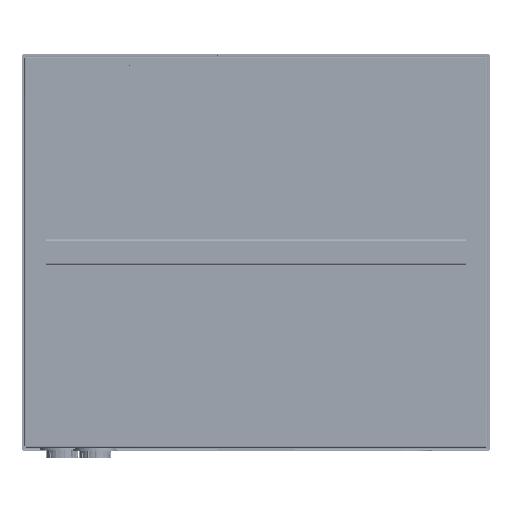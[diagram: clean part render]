
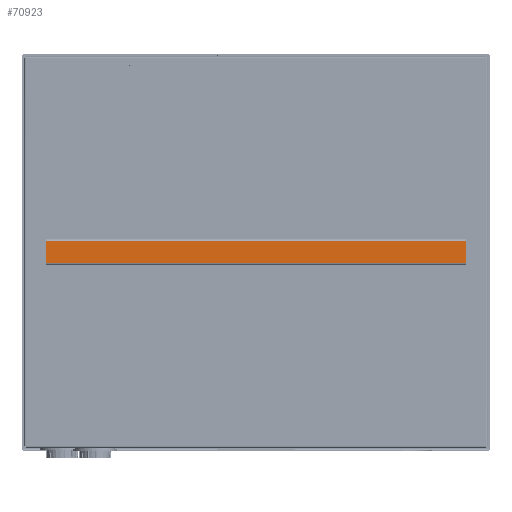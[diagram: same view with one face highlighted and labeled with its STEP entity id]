
A CAD part, front view. The second image highlights one B-rep face of the part: STEP entity #70923.
In plain terms, the highlighted planar face has unit normal (0, 0, 1) by its records, which use the part's own axes.
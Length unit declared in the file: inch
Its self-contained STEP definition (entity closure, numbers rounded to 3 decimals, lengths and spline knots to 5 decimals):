
#26172 = VERTEX_POINT ( 'NONE', #248374 ) ;
#65211 = CARTESIAN_POINT ( 'NONE',  ( 5.10251, -13.39683, 0. ) ) ;
#67539 = EDGE_LOOP ( 'NONE', ( #282380, #541261, #337173, #351784 ) ) ;
#70923 = ADVANCED_FACE ( 'NONE', ( #541276 ), #175652, .F. ) ;
#75645 = LINE ( 'NONE', #426423, #325132 ) ;
#119190 = VECTOR ( 'NONE', #161264, 39.37008 ) ;
#129243 = AXIS2_PLACEMENT_3D ( 'NONE', #554877, #273998, #602005 ) ;
#145621 = DIRECTION ( 'NONE',  ( 0., -1., 0. ) ) ;
#161264 = DIRECTION ( 'NONE',  ( 1., 0., 0. ) ) ;
#163746 = CARTESIAN_POINT ( 'NONE',  ( 5.10251, 16.60317, 0. ) ) ;
#175652 = PLANE ( 'NONE',  #129243 ) ;
#200962 = EDGE_CURVE ( 'NONE', #407192, #448274, #368646, .T. ) ;
#212320 = CARTESIAN_POINT ( 'NONE',  ( 4.40645, 16.60317, 0. ) ) ;
#243974 = VERTEX_POINT ( 'NONE', #480906 ) ;
#248374 = CARTESIAN_POINT ( 'NONE',  ( 5.10251, -13.39683, 0. ) ) ;
#271950 = DIRECTION ( 'NONE',  ( -1., 0., 0. ) ) ;
#273998 = DIRECTION ( 'NONE',  ( 0., 0., -1. ) ) ;
#282380 = ORIENTED_EDGE ( 'NONE', *, *, #200962, .F. ) ;
#287573 = LINE ( 'NONE', #65211, #412112 ) ;
#288718 = EDGE_CURVE ( 'NONE', #26172, #407192, #287573, .T. ) ;
#325132 = VECTOR ( 'NONE', #145621, 39.37008 ) ;
#337173 = ORIENTED_EDGE ( 'NONE', *, *, #350096, .F. ) ;
#346104 = DIRECTION ( 'NONE',  ( 0., 1., 0. ) ) ;
#350096 = EDGE_CURVE ( 'NONE', #243974, #26172, #566547, .T. ) ;
#351784 = ORIENTED_EDGE ( 'NONE', *, *, #446672, .F. ) ;
#368646 = LINE ( 'NONE', #212320, #119190 ) ;
#372681 = CARTESIAN_POINT ( 'NONE',  ( 6.63857, 16.60317, 0. ) ) ;
#407192 = VERTEX_POINT ( 'NONE', #163746 ) ;
#412112 = VECTOR ( 'NONE', #346104, 39.37008 ) ;
#426423 = CARTESIAN_POINT ( 'NONE',  ( 6.63857, -13.39683, 0. ) ) ;
#427037 = VECTOR ( 'NONE', #271950, 39.37008 ) ;
#446672 = EDGE_CURVE ( 'NONE', #448274, #243974, #75645, .T. ) ;
#448274 = VERTEX_POINT ( 'NONE', #372681 ) ;
#480906 = CARTESIAN_POINT ( 'NONE',  ( 6.63857, -13.39683, 0. ) ) ;
#505734 = CARTESIAN_POINT ( 'NONE',  ( 7.33463, -13.39683, 0. ) ) ;
#541261 = ORIENTED_EDGE ( 'NONE', *, *, #288718, .F. ) ;
#541276 = FACE_OUTER_BOUND ( 'NONE', #67539, .T. ) ;
#554877 = CARTESIAN_POINT ( 'NONE',  ( 3.82242, -13.39683, 0. ) ) ;
#566547 = LINE ( 'NONE', #505734, #427037 ) ;
#602005 = DIRECTION ( 'NONE',  ( -1., 0., 0. ) ) ;
